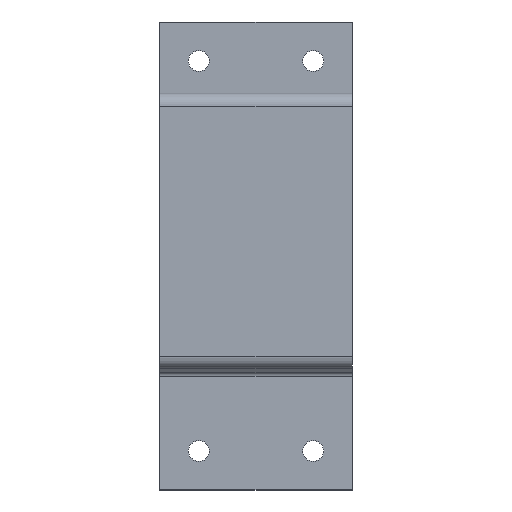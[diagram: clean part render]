
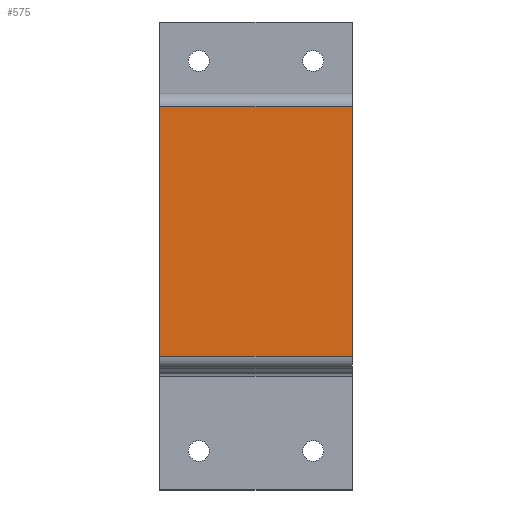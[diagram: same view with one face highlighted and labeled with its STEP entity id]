
A CAD part, front view. The second image highlights one B-rep face of the part: STEP entity #575.
In plain terms, the highlighted planar face has unit normal (0, -1, 0).
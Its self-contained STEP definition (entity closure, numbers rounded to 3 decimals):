
#53 = DIRECTION ( 'NONE',  ( 1., 0., 0. ) ) ;
#105 = CARTESIAN_POINT ( 'NONE',  ( 0., -20., 1.065 ) ) ;
#119 = DIRECTION ( 'NONE',  ( 0., 0., -1. ) ) ;
#177 = VERTEX_POINT ( 'NONE', #833 ) ;
#196 = ORIENTED_EDGE ( 'NONE', *, *, #944, .F. ) ;
#201 = FACE_OUTER_BOUND ( 'NONE', #1177, .T. ) ;
#248 = CARTESIAN_POINT ( 'NONE',  ( 74., -20., -95.066 ) ) ;
#264 = VERTEX_POINT ( 'NONE', #288 ) ;
#286 = VECTOR ( 'NONE', #119, 1000. ) ;
#288 = CARTESIAN_POINT ( 'NONE',  ( 74., -20., 1.065 ) ) ;
#317 = VECTOR ( 'NONE', #53, 1000. ) ;
#334 = VERTEX_POINT ( 'NONE', #105 ) ;
#353 = EDGE_CURVE ( 'NONE', #264, #177, #861, .T. ) ;
#378 = ORIENTED_EDGE ( 'NONE', *, *, #353, .F. ) ;
#384 = CARTESIAN_POINT ( 'NONE',  ( 0., -20., 1.065 ) ) ;
#455 = EDGE_CURVE ( 'NONE', #334, #817, #651, .T. ) ;
#519 = DIRECTION ( 'NONE',  ( 1., 0., 0. ) ) ;
#575 = ADVANCED_FACE ( 'NONE', ( #201 ), #712, .T. ) ;
#613 = DIRECTION ( 'NONE',  ( 0., 0., -1. ) ) ;
#651 = LINE ( 'NONE', #1213, #286 ) ;
#679 = LINE ( 'NONE', #1169, #1295 ) ;
#700 = DIRECTION ( 'NONE',  ( 0., -1., 0. ) ) ;
#712 = PLANE ( 'NONE',  #713 ) ;
#713 = AXIS2_PLACEMENT_3D ( 'NONE', #384, #700, #613 ) ;
#817 = VERTEX_POINT ( 'NONE', #868 ) ;
#833 = CARTESIAN_POINT ( 'NONE',  ( 74., -20., -95.066 ) ) ;
#861 = LINE ( 'NONE', #1205, #1242 ) ;
#868 = CARTESIAN_POINT ( 'NONE',  ( 0., -20., -95.066 ) ) ;
#876 = DIRECTION ( 'NONE',  ( 0., 0., -1. ) ) ;
#944 = EDGE_CURVE ( 'NONE', #334, #264, #679, .T. ) ;
#946 = ORIENTED_EDGE ( 'NONE', *, *, #1080, .T. ) ;
#1080 = EDGE_CURVE ( 'NONE', #817, #177, #1192, .T. ) ;
#1169 = CARTESIAN_POINT ( 'NONE',  ( 0., -20., 1.065 ) ) ;
#1177 = EDGE_LOOP ( 'NONE', ( #1253, #946, #378, #196 ) ) ;
#1192 = LINE ( 'NONE', #248, #317 ) ;
#1205 = CARTESIAN_POINT ( 'NONE',  ( 74., -20., 1.065 ) ) ;
#1213 = CARTESIAN_POINT ( 'NONE',  ( 0., -20., 1.065 ) ) ;
#1242 = VECTOR ( 'NONE', #876, 1000. ) ;
#1253 = ORIENTED_EDGE ( 'NONE', *, *, #455, .T. ) ;
#1295 = VECTOR ( 'NONE', #519, 1000. ) ;
